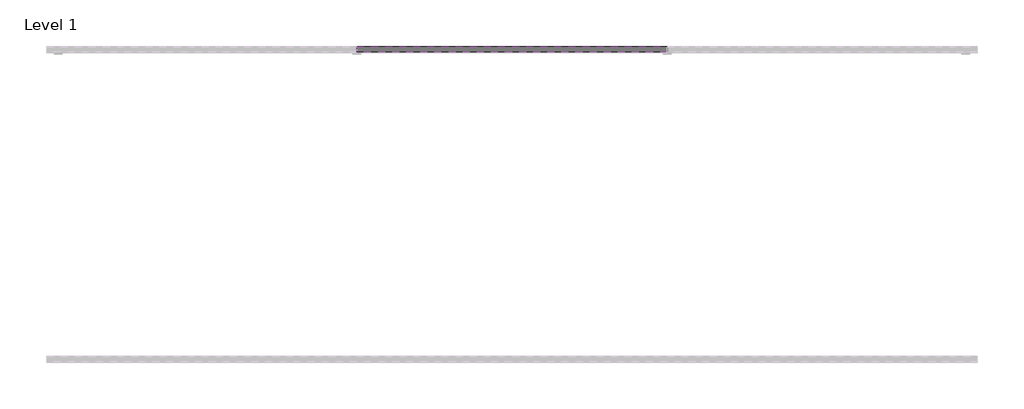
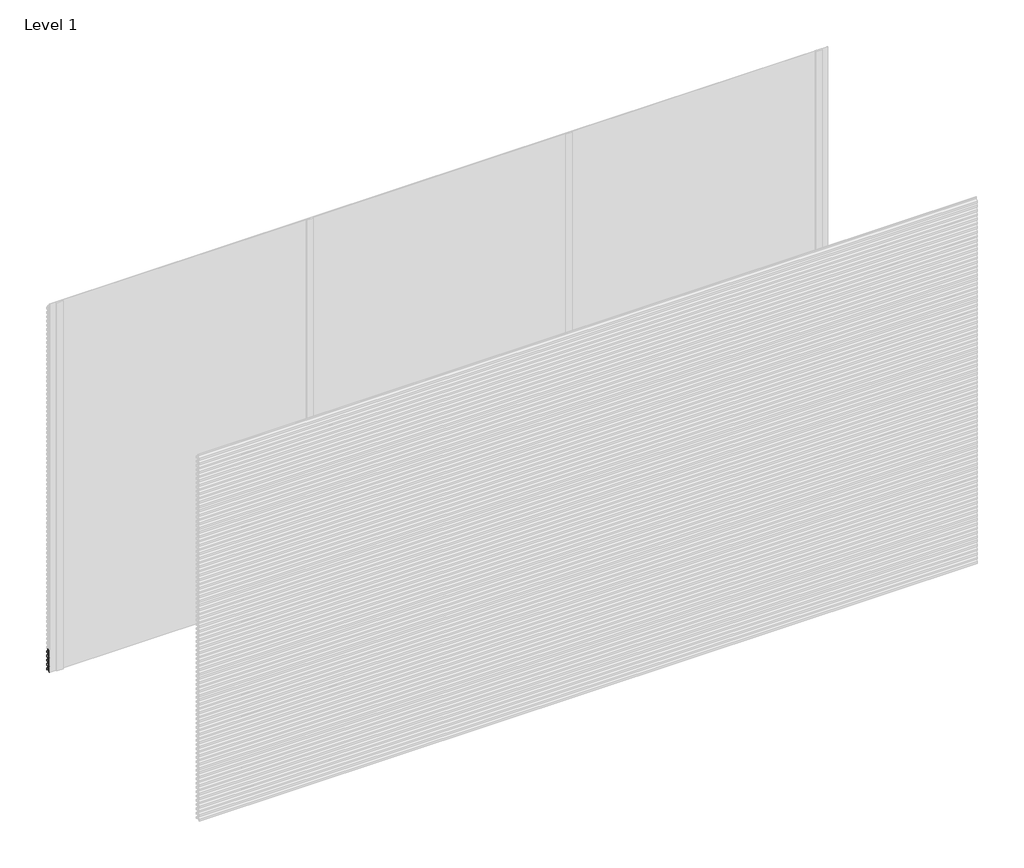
# One storey, part 16 of 17: 87 proxies.
"""IFC4 building model written with IfcOpenShell, lengths in millimetres."""

from ifc_helpers import new_model, si_unit, frame, origin, place, context, project, spatial, polyline, outline, extrude, element, save

model = new_model("IFC4")

# Units and contexts
model_context = context("Model", 3, world=origin())
ifc_project = project(units=[si_unit("LENGTHUNIT", "METRE", prefix="MILLI")], contexts=[model_context])

# Site, building, storey
site = spatial("IfcSite", under=ifc_project)
building = spatial("IfcBuilding", under=site)
storey = spatial("IfcBuildingStorey", under=building, Name="Level 1", Elevation=0.0)

# Proxies
placement = place(None, origin())
element("IfcBuildingElementProxy", 1, Name="Wall Sweeps", at=placement, inside=storey, context=model_context, shape_type="SweptSolid", body=[
    extrude(outline(polyline([(39.0, 151.5), (39.0, 136.5), (21.0, 148.6411533), (3.0, 136.5), (3.0, 151.5), (20.0, 162.9666448), (20.0, 175.0), (22.0, 175.0), (22.0, 162.9666448), (39.0, 151.5)])), frame((0.0, 0.0, 0.0), z_axis=(1.0, 0.0, 0.0), x_axis=(0.0, 1.0, 0.0)), (0.0, 0.0, 1.0), 2000.0),
])
element("IfcBuildingElementProxy", 2, Name="Wall Sweeps", at=placement, inside=storey, context=model_context, shape_type="SweptSolid", body=[
    extrude(outline(polyline([(39.0, 116.5), (39.0, 101.5), (21.0, 113.6411533), (3.0, 101.5), (3.0, 116.5), (20.0, 127.9666448), (20.0, 140.0), (22.0, 140.0), (22.0, 127.9666448), (39.0, 116.5)])), frame((0.0, 0.0, 0.0), z_axis=(1.0, 0.0, 0.0), x_axis=(0.0, 1.0, 0.0)), (0.0, 0.0, 1.0), 2000.0),
])
element("IfcBuildingElementProxy", 3, Name="Wall Sweeps", at=placement, inside=storey, context=model_context, shape_type="SweptSolid", body=[
    extrude(outline(polyline([(39.0, 81.5), (39.0, 66.5), (21.0, 78.6411533), (3.0, 66.5), (3.0, 81.5), (20.0, 92.9666448), (20.0, 105.0), (22.0, 105.0), (22.0, 92.9666448), (39.0, 81.5)])), frame((0.0, 0.0, 0.0), z_axis=(1.0, 0.0, 0.0), x_axis=(0.0, 1.0, 0.0)), (0.0, 0.0, 1.0), 2000.0),
])
element("IfcBuildingElementProxy", 4, Name="Wall Sweeps", at=placement, inside=storey, context=model_context, shape_type="SweptSolid", body=[
    extrude(outline(polyline([(39.0, 46.5), (39.0, 31.5), (21.0, 43.6411533), (3.0, 31.5), (3.0, 46.5), (20.0, 57.9666448), (20.0, 70.0), (22.0, 70.0), (22.0, 57.9666448), (39.0, 46.5)])), frame((0.0, 0.0, 0.0), z_axis=(1.0, 0.0, 0.0), x_axis=(0.0, 1.0, 0.0)), (0.0, 0.0, 1.0), 2000.0),
])
element("IfcBuildingElementProxy", 5, Name="Wall Sweeps", at=placement, inside=storey, context=model_context, shape_type="SweptSolid", body=[
    extrude(outline(polyline([(39.0, 11.5), (39.0, -3.5), (21.0, 8.6411533), (3.0, -3.5), (3.0, 11.5), (20.0, 22.9666448), (20.0, 35.0), (22.0, 35.0), (22.0, 22.9666448), (39.0, 11.5)])), frame((0.0, 0.0, 0.0), z_axis=(1.0, 0.0, 0.0), x_axis=(0.0, 1.0, 0.0)), (0.0, 0.0, 1.0), 2000.0),
])
element("IfcBuildingElementProxy", 6, Name="Wall Sweeps", at=placement, inside=storey, context=model_context, shape_type="SweptSolid", body=[
    extrude(outline(polyline([(39.0, 2951.5), (39.0, 2936.5), (21.0, 2948.6411533), (3.0, 2936.5), (3.0, 2951.5), (20.0, 2962.9666448), (20.0, 2975.0), (22.0, 2975.0), (22.0, 2962.9666448), (39.0, 2951.5)])), frame((2000.0, 0.0, 0.0), z_axis=(1.0, 0.0, 0.0), x_axis=(0.0, 1.0, 0.0)), (0.0, 0.0, 1.0), 2000.0),
])
element("IfcBuildingElementProxy", 7, Name="Wall Sweeps", at=placement, inside=storey, context=model_context, shape_type="SweptSolid", body=[
    extrude(outline(polyline([(39.0, 2916.5), (39.0, 2901.5), (21.0, 2913.6411533), (3.0, 2901.5), (3.0, 2916.5), (20.0, 2927.9666448), (20.0, 2940.0), (22.0, 2940.0), (22.0, 2927.9666448), (39.0, 2916.5)])), frame((2000.0, 0.0, 0.0), z_axis=(1.0, 0.0, 0.0), x_axis=(0.0, 1.0, 0.0)), (0.0, 0.0, 1.0), 2000.0),
])
element("IfcBuildingElementProxy", 8, Name="Wall Sweeps", at=placement, inside=storey, context=model_context, shape_type="SweptSolid", body=[
    extrude(outline(polyline([(39.0, 2881.5), (39.0, 2866.5), (21.0, 2878.6411533), (3.0, 2866.5), (3.0, 2881.5), (20.0, 2892.9666448), (20.0, 2905.0), (22.0, 2905.0), (22.0, 2892.9666448), (39.0, 2881.5)])), frame((2000.0, 0.0, 0.0), z_axis=(1.0, 0.0, 0.0), x_axis=(0.0, 1.0, 0.0)), (0.0, 0.0, 1.0), 2000.0),
])
element("IfcBuildingElementProxy", 9, Name="Wall Sweeps", at=placement, inside=storey, context=model_context, shape_type="SweptSolid", body=[
    extrude(outline(polyline([(39.0, 2846.5), (39.0, 2831.5), (21.0, 2843.6411533), (3.0, 2831.5), (3.0, 2846.5), (20.0, 2857.9666448), (20.0, 2870.0), (22.0, 2870.0), (22.0, 2857.9666448), (39.0, 2846.5)])), frame((2000.0, 0.0, 0.0), z_axis=(1.0, 0.0, 0.0), x_axis=(0.0, 1.0, 0.0)), (0.0, 0.0, 1.0), 2000.0),
])
element("IfcBuildingElementProxy", 10, Name="Wall Sweeps", at=placement, inside=storey, context=model_context, shape_type="SweptSolid", body=[
    extrude(outline(polyline([(39.0, 2811.5), (39.0, 2796.5), (21.0, 2808.6411533), (3.0, 2796.5), (3.0, 2811.5), (20.0, 2822.9666448), (20.0, 2835.0), (22.0, 2835.0), (22.0, 2822.9666448), (39.0, 2811.5)])), frame((2000.0, 0.0, 0.0), z_axis=(1.0, 0.0, 0.0), x_axis=(0.0, 1.0, 0.0)), (0.0, 0.0, 1.0), 2000.0),
])
element("IfcBuildingElementProxy", 11, Name="Wall Sweeps", at=placement, inside=storey, context=model_context, shape_type="SweptSolid", body=[
    extrude(outline(polyline([(39.0, 2776.5), (39.0, 2761.5), (21.0, 2773.6411533), (3.0, 2761.5), (3.0, 2776.5), (20.0, 2787.9666448), (20.0, 2800.0), (22.0, 2800.0), (22.0, 2787.9666448), (39.0, 2776.5)])), frame((2000.0, 0.0, 0.0), z_axis=(1.0, 0.0, 0.0), x_axis=(0.0, 1.0, 0.0)), (0.0, 0.0, 1.0), 2000.0),
])
element("IfcBuildingElementProxy", 12, Name="Wall Sweeps", at=placement, inside=storey, context=model_context, shape_type="SweptSolid", body=[
    extrude(outline(polyline([(39.0, 2741.5), (39.0, 2726.5), (21.0, 2738.6411533), (3.0, 2726.5), (3.0, 2741.5), (20.0, 2752.9666448), (20.0, 2765.0), (22.0, 2765.0), (22.0, 2752.9666448), (39.0, 2741.5)])), frame((2000.0, 0.0, 0.0), z_axis=(1.0, 0.0, 0.0), x_axis=(0.0, 1.0, 0.0)), (0.0, 0.0, 1.0), 2000.0),
])
element("IfcBuildingElementProxy", 13, Name="Wall Sweeps", at=placement, inside=storey, context=model_context, shape_type="SweptSolid", body=[
    extrude(outline(polyline([(39.0, 2706.5), (39.0, 2691.5), (21.0, 2703.6411533), (3.0, 2691.5), (3.0, 2706.5), (20.0, 2717.9666448), (20.0, 2730.0), (22.0, 2730.0), (22.0, 2717.9666448), (39.0, 2706.5)])), frame((2000.0, 0.0, 0.0), z_axis=(1.0, 0.0, 0.0), x_axis=(0.0, 1.0, 0.0)), (0.0, 0.0, 1.0), 2000.0),
])
element("IfcBuildingElementProxy", 14, Name="Wall Sweeps", at=placement, inside=storey, context=model_context, shape_type="SweptSolid", body=[
    extrude(outline(polyline([(39.0, 2671.5), (39.0, 2656.5), (21.0, 2668.6411533), (3.0, 2656.5), (3.0, 2671.5), (20.0, 2682.9666448), (20.0, 2695.0), (22.0, 2695.0), (22.0, 2682.9666448), (39.0, 2671.5)])), frame((2000.0, 0.0, 0.0), z_axis=(1.0, 0.0, 0.0), x_axis=(0.0, 1.0, 0.0)), (0.0, 0.0, 1.0), 2000.0),
])
element("IfcBuildingElementProxy", 15, Name="Wall Sweeps", at=placement, inside=storey, context=model_context, shape_type="SweptSolid", body=[
    extrude(outline(polyline([(39.0, 2636.5), (39.0, 2621.5), (21.0, 2633.6411533), (3.0, 2621.5), (3.0, 2636.5), (20.0, 2647.9666448), (20.0, 2660.0), (22.0, 2660.0), (22.0, 2647.9666448), (39.0, 2636.5)])), frame((2000.0, 0.0, 0.0), z_axis=(1.0, 0.0, 0.0), x_axis=(0.0, 1.0, 0.0)), (0.0, 0.0, 1.0), 2000.0),
])
element("IfcBuildingElementProxy", 16, Name="Wall Sweeps", at=placement, inside=storey, context=model_context, shape_type="SweptSolid", body=[
    extrude(outline(polyline([(39.0, 2601.5), (39.0, 2586.5), (21.0, 2598.6411533), (3.0, 2586.5), (3.0, 2601.5), (20.0, 2612.9666448), (20.0, 2625.0), (22.0, 2625.0), (22.0, 2612.9666448), (39.0, 2601.5)])), frame((2000.0, 0.0, 0.0), z_axis=(1.0, 0.0, 0.0), x_axis=(0.0, 1.0, 0.0)), (0.0, 0.0, 1.0), 2000.0),
])
element("IfcBuildingElementProxy", 17, Name="Wall Sweeps", at=placement, inside=storey, context=model_context, shape_type="SweptSolid", body=[
    extrude(outline(polyline([(39.0, 2566.5), (39.0, 2551.5), (21.0, 2563.6411533), (3.0, 2551.5), (3.0, 2566.5), (20.0, 2577.9666448), (20.0, 2590.0), (22.0, 2590.0), (22.0, 2577.9666448), (39.0, 2566.5)])), frame((2000.0, 0.0, 0.0), z_axis=(1.0, 0.0, 0.0), x_axis=(0.0, 1.0, 0.0)), (0.0, 0.0, 1.0), 2000.0),
])
element("IfcBuildingElementProxy", 18, Name="Wall Sweeps", at=placement, inside=storey, context=model_context, shape_type="SweptSolid", body=[
    extrude(outline(polyline([(39.0, 2531.5), (39.0, 2516.5), (21.0, 2528.6411533), (3.0, 2516.5), (3.0, 2531.5), (20.0, 2542.9666448), (20.0, 2555.0), (22.0, 2555.0), (22.0, 2542.9666448), (39.0, 2531.5)])), frame((2000.0, 0.0, 0.0), z_axis=(1.0, 0.0, 0.0), x_axis=(0.0, 1.0, 0.0)), (0.0, 0.0, 1.0), 2000.0),
])
element("IfcBuildingElementProxy", 19, Name="Wall Sweeps", at=placement, inside=storey, context=model_context, shape_type="SweptSolid", body=[
    extrude(outline(polyline([(39.0, 2496.5), (39.0, 2481.5), (21.0, 2493.6411533), (3.0, 2481.5), (3.0, 2496.5), (20.0, 2507.9666448), (20.0, 2520.0), (22.0, 2520.0), (22.0, 2507.9666448), (39.0, 2496.5)])), frame((2000.0, 0.0, 0.0), z_axis=(1.0, 0.0, 0.0), x_axis=(0.0, 1.0, 0.0)), (0.0, 0.0, 1.0), 2000.0),
])
element("IfcBuildingElementProxy", 20, Name="Wall Sweeps", at=placement, inside=storey, context=model_context, shape_type="SweptSolid", body=[
    extrude(outline(polyline([(39.0, 2461.5), (39.0, 2446.5), (21.0, 2458.6411533), (3.0, 2446.5), (3.0, 2461.5), (20.0, 2472.9666448), (20.0, 2485.0), (22.0, 2485.0), (22.0, 2472.9666448), (39.0, 2461.5)])), frame((2000.0, 0.0, 0.0), z_axis=(1.0, 0.0, 0.0), x_axis=(0.0, 1.0, 0.0)), (0.0, 0.0, 1.0), 2000.0),
])
element("IfcBuildingElementProxy", 21, Name="Wall Sweeps", at=placement, inside=storey, context=model_context, shape_type="SweptSolid", body=[
    extrude(outline(polyline([(39.0, 2426.5), (39.0, 2411.5), (21.0, 2423.6411533), (3.0, 2411.5), (3.0, 2426.5), (20.0, 2437.9666448), (20.0, 2450.0), (22.0, 2450.0), (22.0, 2437.9666448), (39.0, 2426.5)])), frame((2000.0, 0.0, 0.0), z_axis=(1.0, 0.0, 0.0), x_axis=(0.0, 1.0, 0.0)), (0.0, 0.0, 1.0), 2000.0),
])
element("IfcBuildingElementProxy", 22, Name="Wall Sweeps", at=placement, inside=storey, context=model_context, shape_type="SweptSolid", body=[
    extrude(outline(polyline([(39.0, 2391.5), (39.0, 2376.5), (21.0, 2388.6411533), (3.0, 2376.5), (3.0, 2391.5), (20.0, 2402.9666448), (20.0, 2415.0), (22.0, 2415.0), (22.0, 2402.9666448), (39.0, 2391.5)])), frame((2000.0, 0.0, 0.0), z_axis=(1.0, 0.0, 0.0), x_axis=(0.0, 1.0, 0.0)), (0.0, 0.0, 1.0), 2000.0),
])
element("IfcBuildingElementProxy", 23, Name="Wall Sweeps", at=placement, inside=storey, context=model_context, shape_type="SweptSolid", body=[
    extrude(outline(polyline([(39.0, 2356.5), (39.0, 2341.5), (21.0, 2353.6411533), (3.0, 2341.5), (3.0, 2356.5), (20.0, 2367.9666448), (20.0, 2380.0), (22.0, 2380.0), (22.0, 2367.9666448), (39.0, 2356.5)])), frame((2000.0, 0.0, 0.0), z_axis=(1.0, 0.0, 0.0), x_axis=(0.0, 1.0, 0.0)), (0.0, 0.0, 1.0), 2000.0),
])
element("IfcBuildingElementProxy", 24, Name="Wall Sweeps", at=placement, inside=storey, context=model_context, shape_type="SweptSolid", body=[
    extrude(outline(polyline([(39.0, 2321.5), (39.0, 2306.5), (21.0, 2318.6411533), (3.0, 2306.5), (3.0, 2321.5), (20.0, 2332.9666448), (20.0, 2345.0), (22.0, 2345.0), (22.0, 2332.9666448), (39.0, 2321.5)])), frame((2000.0, 0.0, 0.0), z_axis=(1.0, 0.0, 0.0), x_axis=(0.0, 1.0, 0.0)), (0.0, 0.0, 1.0), 2000.0),
])
element("IfcBuildingElementProxy", 25, Name="Wall Sweeps", at=placement, inside=storey, context=model_context, shape_type="SweptSolid", body=[
    extrude(outline(polyline([(39.0, 2286.5), (39.0, 2271.5), (21.0, 2283.6411533), (3.0, 2271.5), (3.0, 2286.5), (20.0, 2297.9666448), (20.0, 2310.0), (22.0, 2310.0), (22.0, 2297.9666448), (39.0, 2286.5)])), frame((2000.0, 0.0, 0.0), z_axis=(1.0, 0.0, 0.0), x_axis=(0.0, 1.0, 0.0)), (0.0, 0.0, 1.0), 2000.0),
])
element("IfcBuildingElementProxy", 26, Name="Wall Sweeps", at=placement, inside=storey, context=model_context, shape_type="SweptSolid", body=[
    extrude(outline(polyline([(39.0, 2251.5), (39.0, 2236.5), (21.0, 2248.6411533), (3.0, 2236.5), (3.0, 2251.5), (20.0, 2262.9666448), (20.0, 2275.0), (22.0, 2275.0), (22.0, 2262.9666448), (39.0, 2251.5)])), frame((2000.0, 0.0, 0.0), z_axis=(1.0, 0.0, 0.0), x_axis=(0.0, 1.0, 0.0)), (0.0, 0.0, 1.0), 2000.0),
])
element("IfcBuildingElementProxy", 27, Name="Wall Sweeps", at=placement, inside=storey, context=model_context, shape_type="SweptSolid", body=[
    extrude(outline(polyline([(39.0, 2216.5), (39.0, 2201.5), (21.0, 2213.6411533), (3.0, 2201.5), (3.0, 2216.5), (20.0, 2227.9666448), (20.0, 2240.0), (22.0, 2240.0), (22.0, 2227.9666448), (39.0, 2216.5)])), frame((2000.0, 0.0, 0.0), z_axis=(1.0, 0.0, 0.0), x_axis=(0.0, 1.0, 0.0)), (0.0, 0.0, 1.0), 2000.0),
])
element("IfcBuildingElementProxy", 28, Name="Wall Sweeps", at=placement, inside=storey, context=model_context, shape_type="SweptSolid", body=[
    extrude(outline(polyline([(39.0, 2181.5), (39.0, 2166.5), (21.0, 2178.6411533), (3.0, 2166.5), (3.0, 2181.5), (20.0, 2192.9666448), (20.0, 2205.0), (22.0, 2205.0), (22.0, 2192.9666448), (39.0, 2181.5)])), frame((2000.0, 0.0, 0.0), z_axis=(1.0, 0.0, 0.0), x_axis=(0.0, 1.0, 0.0)), (0.0, 0.0, 1.0), 2000.0),
])
element("IfcBuildingElementProxy", 29, Name="Wall Sweeps", at=placement, inside=storey, context=model_context, shape_type="SweptSolid", body=[
    extrude(outline(polyline([(39.0, 2146.5), (39.0, 2131.5), (21.0, 2143.6411533), (3.0, 2131.5), (3.0, 2146.5), (20.0, 2157.9666448), (20.0, 2170.0), (22.0, 2170.0), (22.0, 2157.9666448), (39.0, 2146.5)])), frame((2000.0, 0.0, 0.0), z_axis=(1.0, 0.0, 0.0), x_axis=(0.0, 1.0, 0.0)), (0.0, 0.0, 1.0), 2000.0),
])
element("IfcBuildingElementProxy", 30, Name="Wall Sweeps", at=placement, inside=storey, context=model_context, shape_type="SweptSolid", body=[
    extrude(outline(polyline([(39.0, 2111.5), (39.0, 2096.5), (21.0, 2108.6411533), (3.0, 2096.5), (3.0, 2111.5), (20.0, 2122.9666448), (20.0, 2135.0), (22.0, 2135.0), (22.0, 2122.9666448), (39.0, 2111.5)])), frame((2000.0, 0.0, 0.0), z_axis=(1.0, 0.0, 0.0), x_axis=(0.0, 1.0, 0.0)), (0.0, 0.0, 1.0), 2000.0),
])
element("IfcBuildingElementProxy", 31, Name="Wall Sweeps", at=placement, inside=storey, context=model_context, shape_type="SweptSolid", body=[
    extrude(outline(polyline([(39.0, 2076.5), (39.0, 2061.5), (21.0, 2073.6411533), (3.0, 2061.5), (3.0, 2076.5), (20.0, 2087.9666448), (20.0, 2100.0), (22.0, 2100.0), (22.0, 2087.9666448), (39.0, 2076.5)])), frame((2000.0, 0.0, 0.0), z_axis=(1.0, 0.0, 0.0), x_axis=(0.0, 1.0, 0.0)), (0.0, 0.0, 1.0), 2000.0),
])
element("IfcBuildingElementProxy", 32, Name="Wall Sweeps", at=placement, inside=storey, context=model_context, shape_type="SweptSolid", body=[
    extrude(outline(polyline([(39.0, 2041.5), (39.0, 2026.5), (21.0, 2038.6411533), (3.0, 2026.5), (3.0, 2041.5), (20.0, 2052.9666448), (20.0, 2065.0), (22.0, 2065.0), (22.0, 2052.9666448), (39.0, 2041.5)])), frame((2000.0, 0.0, 0.0), z_axis=(1.0, 0.0, 0.0), x_axis=(0.0, 1.0, 0.0)), (0.0, 0.0, 1.0), 2000.0),
])
element("IfcBuildingElementProxy", 33, Name="Wall Sweeps", at=placement, inside=storey, context=model_context, shape_type="SweptSolid", body=[
    extrude(outline(polyline([(39.0, 2006.5), (39.0, 1991.5), (21.0, 2003.6411533), (3.0, 1991.5), (3.0, 2006.5), (20.0, 2017.9666448), (20.0, 2030.0), (22.0, 2030.0), (22.0, 2017.9666448), (39.0, 2006.5)])), frame((2000.0, 0.0, 0.0), z_axis=(1.0, 0.0, 0.0), x_axis=(0.0, 1.0, 0.0)), (0.0, 0.0, 1.0), 2000.0),
])
element("IfcBuildingElementProxy", 34, Name="Wall Sweeps", at=placement, inside=storey, context=model_context, shape_type="SweptSolid", body=[
    extrude(outline(polyline([(39.0, 1971.5), (39.0, 1956.5), (21.0, 1968.6411533), (3.0, 1956.5), (3.0, 1971.5), (20.0, 1982.9666448), (20.0, 1995.0), (22.0, 1995.0), (22.0, 1982.9666448), (39.0, 1971.5)])), frame((2000.0, 0.0, 0.0), z_axis=(1.0, 0.0, 0.0), x_axis=(0.0, 1.0, 0.0)), (0.0, 0.0, 1.0), 2000.0),
])
element("IfcBuildingElementProxy", 35, Name="Wall Sweeps", at=placement, inside=storey, context=model_context, shape_type="SweptSolid", body=[
    extrude(outline(polyline([(39.0, 1936.5), (39.0, 1921.5), (21.0, 1933.6411533), (3.0, 1921.5), (3.0, 1936.5), (20.0, 1947.9666448), (20.0, 1960.0), (22.0, 1960.0), (22.0, 1947.9666448), (39.0, 1936.5)])), frame((2000.0, 0.0, 0.0), z_axis=(1.0, 0.0, 0.0), x_axis=(0.0, 1.0, 0.0)), (0.0, 0.0, 1.0), 2000.0),
])
element("IfcBuildingElementProxy", 36, Name="Wall Sweeps", at=placement, inside=storey, context=model_context, shape_type="SweptSolid", body=[
    extrude(outline(polyline([(39.0, 1901.5), (39.0, 1886.5), (21.0, 1898.6411533), (3.0, 1886.5), (3.0, 1901.5), (20.0, 1912.9666448), (20.0, 1925.0), (22.0, 1925.0), (22.0, 1912.9666448), (39.0, 1901.5)])), frame((2000.0, 0.0, 0.0), z_axis=(1.0, 0.0, 0.0), x_axis=(0.0, 1.0, 0.0)), (0.0, 0.0, 1.0), 2000.0),
])
element("IfcBuildingElementProxy", 37, Name="Wall Sweeps", at=placement, inside=storey, context=model_context, shape_type="SweptSolid", body=[
    extrude(outline(polyline([(39.0, 1866.5), (39.0, 1851.5), (21.0, 1863.6411533), (3.0, 1851.5), (3.0, 1866.5), (20.0, 1877.9666448), (20.0, 1890.0), (22.0, 1890.0), (22.0, 1877.9666448), (39.0, 1866.5)])), frame((2000.0, 0.0, 0.0), z_axis=(1.0, 0.0, 0.0), x_axis=(0.0, 1.0, 0.0)), (0.0, 0.0, 1.0), 2000.0),
])
element("IfcBuildingElementProxy", 38, Name="Wall Sweeps", at=placement, inside=storey, context=model_context, shape_type="SweptSolid", body=[
    extrude(outline(polyline([(39.0, 1831.5), (39.0, 1816.5), (21.0, 1828.6411533), (3.0, 1816.5), (3.0, 1831.5), (20.0, 1842.9666448), (20.0, 1855.0), (22.0, 1855.0), (22.0, 1842.9666448), (39.0, 1831.5)])), frame((2000.0, 0.0, 0.0), z_axis=(1.0, 0.0, 0.0), x_axis=(0.0, 1.0, 0.0)), (0.0, 0.0, 1.0), 2000.0),
])
element("IfcBuildingElementProxy", 39, Name="Wall Sweeps", at=placement, inside=storey, context=model_context, shape_type="SweptSolid", body=[
    extrude(outline(polyline([(39.0, 1796.5), (39.0, 1781.5), (21.0, 1793.6411533), (3.0, 1781.5), (3.0, 1796.5), (20.0, 1807.9666448), (20.0, 1820.0), (22.0, 1820.0), (22.0, 1807.9666448), (39.0, 1796.5)])), frame((2000.0, 0.0, 0.0), z_axis=(1.0, 0.0, 0.0), x_axis=(0.0, 1.0, 0.0)), (0.0, 0.0, 1.0), 2000.0),
])
element("IfcBuildingElementProxy", 40, Name="Wall Sweeps", at=placement, inside=storey, context=model_context, shape_type="SweptSolid", body=[
    extrude(outline(polyline([(39.0, 1761.5), (39.0, 1746.5), (21.0, 1758.6411533), (3.0, 1746.5), (3.0, 1761.5), (20.0, 1772.9666448), (20.0, 1785.0), (22.0, 1785.0), (22.0, 1772.9666448), (39.0, 1761.5)])), frame((2000.0, 0.0, 0.0), z_axis=(1.0, 0.0, 0.0), x_axis=(0.0, 1.0, 0.0)), (0.0, 0.0, 1.0), 2000.0),
])
element("IfcBuildingElementProxy", 41, Name="Wall Sweeps", at=placement, inside=storey, context=model_context, shape_type="SweptSolid", body=[
    extrude(outline(polyline([(39.0, 1726.5), (39.0, 1711.5), (21.0, 1723.6411533), (3.0, 1711.5), (3.0, 1726.5), (20.0, 1737.9666448), (20.0, 1750.0), (22.0, 1750.0), (22.0, 1737.9666448), (39.0, 1726.5)])), frame((2000.0, 0.0, 0.0), z_axis=(1.0, 0.0, 0.0), x_axis=(0.0, 1.0, 0.0)), (0.0, 0.0, 1.0), 2000.0),
])
element("IfcBuildingElementProxy", 42, Name="Wall Sweeps", at=placement, inside=storey, context=model_context, shape_type="SweptSolid", body=[
    extrude(outline(polyline([(39.0, 1691.5), (39.0, 1676.5), (21.0, 1688.6411533), (3.0, 1676.5), (3.0, 1691.5), (20.0, 1702.9666448), (20.0, 1715.0), (22.0, 1715.0), (22.0, 1702.9666448), (39.0, 1691.5)])), frame((2000.0, 0.0, 0.0), z_axis=(1.0, 0.0, 0.0), x_axis=(0.0, 1.0, 0.0)), (0.0, 0.0, 1.0), 2000.0),
])
element("IfcBuildingElementProxy", 43, Name="Wall Sweeps", at=placement, inside=storey, context=model_context, shape_type="SweptSolid", body=[
    extrude(outline(polyline([(39.0, 1656.5), (39.0, 1641.5), (21.0, 1653.6411533), (3.0, 1641.5), (3.0, 1656.5), (20.0, 1667.9666448), (20.0, 1680.0), (22.0, 1680.0), (22.0, 1667.9666448), (39.0, 1656.5)])), frame((2000.0, 0.0, 0.0), z_axis=(1.0, 0.0, 0.0), x_axis=(0.0, 1.0, 0.0)), (0.0, 0.0, 1.0), 2000.0),
])
element("IfcBuildingElementProxy", 44, Name="Wall Sweeps", at=placement, inside=storey, context=model_context, shape_type="SweptSolid", body=[
    extrude(outline(polyline([(39.0, 1621.5), (39.0, 1606.5), (21.0, 1618.6411533), (3.0, 1606.5), (3.0, 1621.5), (20.0, 1632.9666448), (20.0, 1645.0), (22.0, 1645.0), (22.0, 1632.9666448), (39.0, 1621.5)])), frame((2000.0, 0.0, 0.0), z_axis=(1.0, 0.0, 0.0), x_axis=(0.0, 1.0, 0.0)), (0.0, 0.0, 1.0), 2000.0),
])
element("IfcBuildingElementProxy", 45, Name="Wall Sweeps", at=placement, inside=storey, context=model_context, shape_type="SweptSolid", body=[
    extrude(outline(polyline([(39.0, 1586.5), (39.0, 1571.5), (21.0, 1583.6411533), (3.0, 1571.5), (3.0, 1586.5), (20.0, 1597.9666448), (20.0, 1610.0), (22.0, 1610.0), (22.0, 1597.9666448), (39.0, 1586.5)])), frame((2000.0, 0.0, 0.0), z_axis=(1.0, 0.0, 0.0), x_axis=(0.0, 1.0, 0.0)), (0.0, 0.0, 1.0), 2000.0),
])
element("IfcBuildingElementProxy", 46, Name="Wall Sweeps", at=placement, inside=storey, context=model_context, shape_type="SweptSolid", body=[
    extrude(outline(polyline([(39.0, 1551.5), (39.0, 1536.5), (21.0, 1548.6411533), (3.0, 1536.5), (3.0, 1551.5), (20.0, 1562.9666448), (20.0, 1575.0), (22.0, 1575.0), (22.0, 1562.9666448), (39.0, 1551.5)])), frame((2000.0, 0.0, 0.0), z_axis=(1.0, 0.0, 0.0), x_axis=(0.0, 1.0, 0.0)), (0.0, 0.0, 1.0), 2000.0),
])
element("IfcBuildingElementProxy", 47, Name="Wall Sweeps", at=placement, inside=storey, context=model_context, shape_type="SweptSolid", body=[
    extrude(outline(polyline([(39.0, 1516.5), (39.0, 1501.5), (21.0, 1513.6411533), (3.0, 1501.5), (3.0, 1516.5), (20.0, 1527.9666448), (20.0, 1540.0), (22.0, 1540.0), (22.0, 1527.9666448), (39.0, 1516.5)])), frame((2000.0, 0.0, 0.0), z_axis=(1.0, 0.0, 0.0), x_axis=(0.0, 1.0, 0.0)), (0.0, 0.0, 1.0), 2000.0),
])
element("IfcBuildingElementProxy", 48, Name="Wall Sweeps", at=placement, inside=storey, context=model_context, shape_type="SweptSolid", body=[
    extrude(outline(polyline([(39.0, 1481.5), (39.0, 1466.5), (21.0, 1478.6411533), (3.0, 1466.5), (3.0, 1481.5), (20.0, 1492.9666448), (20.0, 1505.0), (22.0, 1505.0), (22.0, 1492.9666448), (39.0, 1481.5)])), frame((2000.0, 0.0, 0.0), z_axis=(1.0, 0.0, 0.0), x_axis=(0.0, 1.0, 0.0)), (0.0, 0.0, 1.0), 2000.0),
])
element("IfcBuildingElementProxy", 49, Name="Wall Sweeps", at=placement, inside=storey, context=model_context, shape_type="SweptSolid", body=[
    extrude(outline(polyline([(39.0, 1446.5), (39.0, 1431.5), (21.0, 1443.6411533), (3.0, 1431.5), (3.0, 1446.5), (20.0, 1457.9666448), (20.0, 1470.0), (22.0, 1470.0), (22.0, 1457.9666448), (39.0, 1446.5)])), frame((2000.0, 0.0, 0.0), z_axis=(1.0, 0.0, 0.0), x_axis=(0.0, 1.0, 0.0)), (0.0, 0.0, 1.0), 2000.0),
])
element("IfcBuildingElementProxy", 50, Name="Wall Sweeps", at=placement, inside=storey, context=model_context, shape_type="SweptSolid", body=[
    extrude(outline(polyline([(39.0, 1411.5), (39.0, 1396.5), (21.0, 1408.6411533), (3.0, 1396.5), (3.0, 1411.5), (20.0, 1422.9666448), (20.0, 1435.0), (22.0, 1435.0), (22.0, 1422.9666448), (39.0, 1411.5)])), frame((2000.0, 0.0, 0.0), z_axis=(1.0, 0.0, 0.0), x_axis=(0.0, 1.0, 0.0)), (0.0, 0.0, 1.0), 2000.0),
])
element("IfcBuildingElementProxy", 51, Name="Wall Sweeps", at=placement, inside=storey, context=model_context, shape_type="SweptSolid", body=[
    extrude(outline(polyline([(39.0, 1376.5), (39.0, 1361.5), (21.0, 1373.6411533), (3.0, 1361.5), (3.0, 1376.5), (20.0, 1387.9666448), (20.0, 1400.0), (22.0, 1400.0), (22.0, 1387.9666448), (39.0, 1376.5)])), frame((2000.0, 0.0, 0.0), z_axis=(1.0, 0.0, 0.0), x_axis=(0.0, 1.0, 0.0)), (0.0, 0.0, 1.0), 2000.0),
])
element("IfcBuildingElementProxy", 52, Name="Wall Sweeps", at=placement, inside=storey, context=model_context, shape_type="SweptSolid", body=[
    extrude(outline(polyline([(39.0, 1341.5), (39.0, 1326.5), (21.0, 1338.6411533), (3.0, 1326.5), (3.0, 1341.5), (20.0, 1352.9666448), (20.0, 1365.0), (22.0, 1365.0), (22.0, 1352.9666448), (39.0, 1341.5)])), frame((2000.0, 0.0, 0.0), z_axis=(1.0, 0.0, 0.0), x_axis=(0.0, 1.0, 0.0)), (0.0, 0.0, 1.0), 2000.0),
])
element("IfcBuildingElementProxy", 53, Name="Wall Sweeps", at=placement, inside=storey, context=model_context, shape_type="SweptSolid", body=[
    extrude(outline(polyline([(39.0, 1306.5), (39.0, 1291.5), (21.0, 1303.6411533), (3.0, 1291.5), (3.0, 1306.5), (20.0, 1317.9666448), (20.0, 1330.0), (22.0, 1330.0), (22.0, 1317.9666448), (39.0, 1306.5)])), frame((2000.0, 0.0, 0.0), z_axis=(1.0, 0.0, 0.0), x_axis=(0.0, 1.0, 0.0)), (0.0, 0.0, 1.0), 2000.0),
])
element("IfcBuildingElementProxy", 54, Name="Wall Sweeps", at=placement, inside=storey, context=model_context, shape_type="SweptSolid", body=[
    extrude(outline(polyline([(39.0, 1271.5), (39.0, 1256.5), (21.0, 1268.6411533), (3.0, 1256.5), (3.0, 1271.5), (20.0, 1282.9666448), (20.0, 1295.0), (22.0, 1295.0), (22.0, 1282.9666448), (39.0, 1271.5)])), frame((2000.0, 0.0, 0.0), z_axis=(1.0, 0.0, 0.0), x_axis=(0.0, 1.0, 0.0)), (0.0, 0.0, 1.0), 2000.0),
])
element("IfcBuildingElementProxy", 55, Name="Wall Sweeps", at=placement, inside=storey, context=model_context, shape_type="SweptSolid", body=[
    extrude(outline(polyline([(39.0, 1236.5), (39.0, 1221.5), (21.0, 1233.6411533), (3.0, 1221.5), (3.0, 1236.5), (20.0, 1247.9666448), (20.0, 1260.0), (22.0, 1260.0), (22.0, 1247.9666448), (39.0, 1236.5)])), frame((2000.0, 0.0, 0.0), z_axis=(1.0, 0.0, 0.0), x_axis=(0.0, 1.0, 0.0)), (0.0, 0.0, 1.0), 2000.0),
])
element("IfcBuildingElementProxy", 56, Name="Wall Sweeps", at=placement, inside=storey, context=model_context, shape_type="SweptSolid", body=[
    extrude(outline(polyline([(39.0, 1201.5), (39.0, 1186.5), (21.0, 1198.6411533), (3.0, 1186.5), (3.0, 1201.5), (20.0, 1212.9666448), (20.0, 1225.0), (22.0, 1225.0), (22.0, 1212.9666448), (39.0, 1201.5)])), frame((2000.0, 0.0, 0.0), z_axis=(1.0, 0.0, 0.0), x_axis=(0.0, 1.0, 0.0)), (0.0, 0.0, 1.0), 2000.0),
])
element("IfcBuildingElementProxy", 57, Name="Wall Sweeps", at=placement, inside=storey, context=model_context, shape_type="SweptSolid", body=[
    extrude(outline(polyline([(39.0, 1166.5), (39.0, 1151.5), (21.0, 1163.6411533), (3.0, 1151.5), (3.0, 1166.5), (20.0, 1177.9666448), (20.0, 1190.0), (22.0, 1190.0), (22.0, 1177.9666448), (39.0, 1166.5)])), frame((2000.0, 0.0, 0.0), z_axis=(1.0, 0.0, 0.0), x_axis=(0.0, 1.0, 0.0)), (0.0, 0.0, 1.0), 2000.0),
])
element("IfcBuildingElementProxy", 58, Name="Wall Sweeps", at=placement, inside=storey, context=model_context, shape_type="SweptSolid", body=[
    extrude(outline(polyline([(39.0, 1131.5), (39.0, 1116.5), (21.0, 1128.6411533), (3.0, 1116.5), (3.0, 1131.5), (20.0, 1142.9666448), (20.0, 1155.0), (22.0, 1155.0), (22.0, 1142.9666448), (39.0, 1131.5)])), frame((2000.0, 0.0, 0.0), z_axis=(1.0, 0.0, 0.0), x_axis=(0.0, 1.0, 0.0)), (0.0, 0.0, 1.0), 2000.0),
])
element("IfcBuildingElementProxy", 59, Name="Wall Sweeps", at=placement, inside=storey, context=model_context, shape_type="SweptSolid", body=[
    extrude(outline(polyline([(39.0, 1096.5), (39.0, 1081.5), (21.0, 1093.6411533), (3.0, 1081.5), (3.0, 1096.5), (20.0, 1107.9666448), (20.0, 1120.0), (22.0, 1120.0), (22.0, 1107.9666448), (39.0, 1096.5)])), frame((2000.0, 0.0, 0.0), z_axis=(1.0, 0.0, 0.0), x_axis=(0.0, 1.0, 0.0)), (0.0, 0.0, 1.0), 2000.0),
])
element("IfcBuildingElementProxy", 60, Name="Wall Sweeps", at=placement, inside=storey, context=model_context, shape_type="SweptSolid", body=[
    extrude(outline(polyline([(39.0, 1061.5), (39.0, 1046.5), (21.0, 1058.6411533), (3.0, 1046.5), (3.0, 1061.5), (20.0, 1072.9666448), (20.0, 1085.0), (22.0, 1085.0), (22.0, 1072.9666448), (39.0, 1061.5)])), frame((2000.0, 0.0, 0.0), z_axis=(1.0, 0.0, 0.0), x_axis=(0.0, 1.0, 0.0)), (0.0, 0.0, 1.0), 2000.0),
])
element("IfcBuildingElementProxy", 61, Name="Wall Sweeps", at=placement, inside=storey, context=model_context, shape_type="SweptSolid", body=[
    extrude(outline(polyline([(39.0, 1026.5), (39.0, 1011.5), (21.0, 1023.6411533), (3.0, 1011.5), (3.0, 1026.5), (20.0, 1037.9666448), (20.0, 1050.0), (22.0, 1050.0), (22.0, 1037.9666448), (39.0, 1026.5)])), frame((2000.0, 0.0, 0.0), z_axis=(1.0, 0.0, 0.0), x_axis=(0.0, 1.0, 0.0)), (0.0, 0.0, 1.0), 2000.0),
])
element("IfcBuildingElementProxy", 62, Name="Wall Sweeps", at=placement, inside=storey, context=model_context, shape_type="SweptSolid", body=[
    extrude(outline(polyline([(39.0, 991.5), (39.0, 976.5), (21.0, 988.6411533), (3.0, 976.5), (3.0, 991.5), (20.0, 1002.9666448), (20.0, 1015.0), (22.0, 1015.0), (22.0, 1002.9666448), (39.0, 991.5)])), frame((2000.0, 0.0, 0.0), z_axis=(1.0, 0.0, 0.0), x_axis=(0.0, 1.0, 0.0)), (0.0, 0.0, 1.0), 2000.0),
])
element("IfcBuildingElementProxy", 63, Name="Wall Sweeps", at=placement, inside=storey, context=model_context, shape_type="SweptSolid", body=[
    extrude(outline(polyline([(39.0, 956.5), (39.0, 941.5), (21.0, 953.6411533), (3.0, 941.5), (3.0, 956.5), (20.0, 967.9666448), (20.0, 980.0), (22.0, 980.0), (22.0, 967.9666448), (39.0, 956.5)])), frame((2000.0, 0.0, 0.0), z_axis=(1.0, 0.0, 0.0), x_axis=(0.0, 1.0, 0.0)), (0.0, 0.0, 1.0), 2000.0),
])
element("IfcBuildingElementProxy", 64, Name="Wall Sweeps", at=placement, inside=storey, context=model_context, shape_type="SweptSolid", body=[
    extrude(outline(polyline([(39.0, 921.5), (39.0, 906.5), (21.0, 918.6411533), (3.0, 906.5), (3.0, 921.5), (20.0, 932.9666448), (20.0, 945.0), (22.0, 945.0), (22.0, 932.9666448), (39.0, 921.5)])), frame((2000.0, 0.0, 0.0), z_axis=(1.0, 0.0, 0.0), x_axis=(0.0, 1.0, 0.0)), (0.0, 0.0, 1.0), 2000.0),
])
element("IfcBuildingElementProxy", 65, Name="Wall Sweeps", at=placement, inside=storey, context=model_context, shape_type="SweptSolid", body=[
    extrude(outline(polyline([(39.0, 886.5), (39.0, 871.5), (21.0, 883.6411533), (3.0, 871.5), (3.0, 886.5), (20.0, 897.9666448), (20.0, 910.0), (22.0, 910.0), (22.0, 897.9666448), (39.0, 886.5)])), frame((2000.0, 0.0, 0.0), z_axis=(1.0, 0.0, 0.0), x_axis=(0.0, 1.0, 0.0)), (0.0, 0.0, 1.0), 2000.0),
])
element("IfcBuildingElementProxy", 66, Name="Wall Sweeps", at=placement, inside=storey, context=model_context, shape_type="SweptSolid", body=[
    extrude(outline(polyline([(39.0, 851.5), (39.0, 836.5), (21.0, 848.6411533), (3.0, 836.5), (3.0, 851.5), (20.0, 862.9666448), (20.0, 875.0), (22.0, 875.0), (22.0, 862.9666448), (39.0, 851.5)])), frame((2000.0, 0.0, 0.0), z_axis=(1.0, 0.0, 0.0), x_axis=(0.0, 1.0, 0.0)), (0.0, 0.0, 1.0), 2000.0),
])
element("IfcBuildingElementProxy", 67, Name="Wall Sweeps", at=placement, inside=storey, context=model_context, shape_type="SweptSolid", body=[
    extrude(outline(polyline([(39.0, 816.5), (39.0, 801.5), (21.0, 813.6411533), (3.0, 801.5), (3.0, 816.5), (20.0, 827.9666448), (20.0, 840.0), (22.0, 840.0), (22.0, 827.9666448), (39.0, 816.5)])), frame((2000.0, 0.0, 0.0), z_axis=(1.0, 0.0, 0.0), x_axis=(0.0, 1.0, 0.0)), (0.0, 0.0, 1.0), 2000.0),
])
element("IfcBuildingElementProxy", 68, Name="Wall Sweeps", at=placement, inside=storey, context=model_context, shape_type="SweptSolid", body=[
    extrude(outline(polyline([(39.0, 781.5), (39.0, 766.5), (21.0, 778.6411533), (3.0, 766.5), (3.0, 781.5), (20.0, 792.9666448), (20.0, 805.0), (22.0, 805.0), (22.0, 792.9666448), (39.0, 781.5)])), frame((2000.0, 0.0, 0.0), z_axis=(1.0, 0.0, 0.0), x_axis=(0.0, 1.0, 0.0)), (0.0, 0.0, 1.0), 2000.0),
])
element("IfcBuildingElementProxy", 69, Name="Wall Sweeps", at=placement, inside=storey, context=model_context, shape_type="SweptSolid", body=[
    extrude(outline(polyline([(39.0, 746.5), (39.0, 731.5), (21.0, 743.6411533), (3.0, 731.5), (3.0, 746.5), (20.0, 757.9666448), (20.0, 770.0), (22.0, 770.0), (22.0, 757.9666448), (39.0, 746.5)])), frame((2000.0, 0.0, 0.0), z_axis=(1.0, 0.0, 0.0), x_axis=(0.0, 1.0, 0.0)), (0.0, 0.0, 1.0), 2000.0),
])
element("IfcBuildingElementProxy", 70, Name="Wall Sweeps", at=placement, inside=storey, context=model_context, shape_type="SweptSolid", body=[
    extrude(outline(polyline([(39.0, 711.5), (39.0, 696.5), (21.0, 708.6411533), (3.0, 696.5), (3.0, 711.5), (20.0, 722.9666448), (20.0, 735.0), (22.0, 735.0), (22.0, 722.9666448), (39.0, 711.5)])), frame((2000.0, 0.0, 0.0), z_axis=(1.0, 0.0, 0.0), x_axis=(0.0, 1.0, 0.0)), (0.0, 0.0, 1.0), 2000.0),
])
element("IfcBuildingElementProxy", 71, Name="Wall Sweeps", at=placement, inside=storey, context=model_context, shape_type="SweptSolid", body=[
    extrude(outline(polyline([(39.0, 676.5), (39.0, 661.5), (21.0, 673.6411533), (3.0, 661.5), (3.0, 676.5), (20.0, 687.9666448), (20.0, 700.0), (22.0, 700.0), (22.0, 687.9666448), (39.0, 676.5)])), frame((2000.0, 0.0, 0.0), z_axis=(1.0, 0.0, 0.0), x_axis=(0.0, 1.0, 0.0)), (0.0, 0.0, 1.0), 2000.0),
])
element("IfcBuildingElementProxy", 72, Name="Wall Sweeps", at=placement, inside=storey, context=model_context, shape_type="SweptSolid", body=[
    extrude(outline(polyline([(39.0, 641.5), (39.0, 626.5), (21.0, 638.6411533), (3.0, 626.5), (3.0, 641.5), (20.0, 652.9666448), (20.0, 665.0), (22.0, 665.0), (22.0, 652.9666448), (39.0, 641.5)])), frame((2000.0, 0.0, 0.0), z_axis=(1.0, 0.0, 0.0), x_axis=(0.0, 1.0, 0.0)), (0.0, 0.0, 1.0), 2000.0),
])
element("IfcBuildingElementProxy", 73, Name="Wall Sweeps", at=placement, inside=storey, context=model_context, shape_type="SweptSolid", body=[
    extrude(outline(polyline([(39.0, 606.5), (39.0, 591.5), (21.0, 603.6411533), (3.0, 591.5), (3.0, 606.5), (20.0, 617.9666448), (20.0, 630.0), (22.0, 630.0), (22.0, 617.9666448), (39.0, 606.5)])), frame((2000.0, 0.0, 0.0), z_axis=(1.0, 0.0, 0.0), x_axis=(0.0, 1.0, 0.0)), (0.0, 0.0, 1.0), 2000.0),
])
element("IfcBuildingElementProxy", 74, Name="Wall Sweeps", at=placement, inside=storey, context=model_context, shape_type="SweptSolid", body=[
    extrude(outline(polyline([(39.0, 571.5), (39.0, 556.5), (21.0, 568.6411533), (3.0, 556.5), (3.0, 571.5), (20.0, 582.9666448), (20.0, 595.0), (22.0, 595.0), (22.0, 582.9666448), (39.0, 571.5)])), frame((2000.0, 0.0, 0.0), z_axis=(1.0, 0.0, 0.0), x_axis=(0.0, 1.0, 0.0)), (0.0, 0.0, 1.0), 2000.0),
])
element("IfcBuildingElementProxy", 75, Name="Wall Sweeps", at=placement, inside=storey, context=model_context, shape_type="SweptSolid", body=[
    extrude(outline(polyline([(39.0, 536.5), (39.0, 521.5), (21.0, 533.6411533), (3.0, 521.5), (3.0, 536.5), (20.0, 547.9666448), (20.0, 560.0), (22.0, 560.0), (22.0, 547.9666448), (39.0, 536.5)])), frame((2000.0, 0.0, 0.0), z_axis=(1.0, 0.0, 0.0), x_axis=(0.0, 1.0, 0.0)), (0.0, 0.0, 1.0), 2000.0),
])
element("IfcBuildingElementProxy", 76, Name="Wall Sweeps", at=placement, inside=storey, context=model_context, shape_type="SweptSolid", body=[
    extrude(outline(polyline([(39.0, 501.5), (39.0, 486.5), (21.0, 498.6411533), (3.0, 486.5), (3.0, 501.5), (20.0, 512.9666448), (20.0, 525.0), (22.0, 525.0), (22.0, 512.9666448), (39.0, 501.5)])), frame((2000.0, 0.0, 0.0), z_axis=(1.0, 0.0, 0.0), x_axis=(0.0, 1.0, 0.0)), (0.0, 0.0, 1.0), 2000.0),
])
element("IfcBuildingElementProxy", 77, Name="Wall Sweeps", at=placement, inside=storey, context=model_context, shape_type="SweptSolid", body=[
    extrude(outline(polyline([(39.0, 466.5), (39.0, 451.5), (21.0, 463.6411533), (3.0, 451.5), (3.0, 466.5), (20.0, 477.9666448), (20.0, 490.0), (22.0, 490.0), (22.0, 477.9666448), (39.0, 466.5)])), frame((2000.0, 0.0, 0.0), z_axis=(1.0, 0.0, 0.0), x_axis=(0.0, 1.0, 0.0)), (0.0, 0.0, 1.0), 2000.0),
])
element("IfcBuildingElementProxy", 78, Name="Wall Sweeps", at=placement, inside=storey, context=model_context, shape_type="SweptSolid", body=[
    extrude(outline(polyline([(39.0, 431.5), (39.0, 416.5), (21.0, 428.6411533), (3.0, 416.5), (3.0, 431.5), (20.0, 442.9666448), (20.0, 455.0), (22.0, 455.0), (22.0, 442.9666448), (39.0, 431.5)])), frame((2000.0, 0.0, 0.0), z_axis=(1.0, 0.0, 0.0), x_axis=(0.0, 1.0, 0.0)), (0.0, 0.0, 1.0), 2000.0),
])
element("IfcBuildingElementProxy", 79, Name="Wall Sweeps", at=placement, inside=storey, context=model_context, shape_type="SweptSolid", body=[
    extrude(outline(polyline([(39.0, 396.5), (39.0, 381.5), (21.0, 393.6411533), (3.0, 381.5), (3.0, 396.5), (20.0, 407.9666448), (20.0, 420.0), (22.0, 420.0), (22.0, 407.9666448), (39.0, 396.5)])), frame((2000.0, 0.0, 0.0), z_axis=(1.0, 0.0, 0.0), x_axis=(0.0, 1.0, 0.0)), (0.0, 0.0, 1.0), 2000.0),
])
element("IfcBuildingElementProxy", 80, Name="Wall Sweeps", at=placement, inside=storey, context=model_context, shape_type="SweptSolid", body=[
    extrude(outline(polyline([(39.0, 361.5), (39.0, 346.5), (21.0, 358.6411533), (3.0, 346.5), (3.0, 361.5), (20.0, 372.9666448), (20.0, 385.0), (22.0, 385.0), (22.0, 372.9666448), (39.0, 361.5)])), frame((2000.0, 0.0, 0.0), z_axis=(1.0, 0.0, 0.0), x_axis=(0.0, 1.0, 0.0)), (0.0, 0.0, 1.0), 2000.0),
])
element("IfcBuildingElementProxy", 81, Name="Wall Sweeps", at=placement, inside=storey, context=model_context, shape_type="SweptSolid", body=[
    extrude(outline(polyline([(39.0, 326.5), (39.0, 311.5), (21.0, 323.6411533), (3.0, 311.5), (3.0, 326.5), (20.0, 337.9666448), (20.0, 350.0), (22.0, 350.0), (22.0, 337.9666448), (39.0, 326.5)])), frame((2000.0, 0.0, 0.0), z_axis=(1.0, 0.0, 0.0), x_axis=(0.0, 1.0, 0.0)), (0.0, 0.0, 1.0), 2000.0),
])
element("IfcBuildingElementProxy", 82, Name="Wall Sweeps", at=placement, inside=storey, context=model_context, shape_type="SweptSolid", body=[
    extrude(outline(polyline([(39.0, 291.5), (39.0, 276.5), (21.0, 288.6411533), (3.0, 276.5), (3.0, 291.5), (20.0, 302.9666448), (20.0, 315.0), (22.0, 315.0), (22.0, 302.9666448), (39.0, 291.5)])), frame((2000.0, 0.0, 0.0), z_axis=(1.0, 0.0, 0.0), x_axis=(0.0, 1.0, 0.0)), (0.0, 0.0, 1.0), 2000.0),
])
element("IfcBuildingElementProxy", 83, Name="Wall Sweeps", at=placement, inside=storey, context=model_context, shape_type="SweptSolid", body=[
    extrude(outline(polyline([(39.0, 256.5), (39.0, 241.5), (21.0, 253.6411533), (3.0, 241.5), (3.0, 256.5), (20.0, 267.9666448), (20.0, 280.0), (22.0, 280.0), (22.0, 267.9666448), (39.0, 256.5)])), frame((2000.0, 0.0, 0.0), z_axis=(1.0, 0.0, 0.0), x_axis=(0.0, 1.0, 0.0)), (0.0, 0.0, 1.0), 2000.0),
])
element("IfcBuildingElementProxy", 84, Name="Wall Sweeps", at=placement, inside=storey, context=model_context, shape_type="SweptSolid", body=[
    extrude(outline(polyline([(39.0, 221.5), (39.0, 206.5), (21.0, 218.6411533), (3.0, 206.5), (3.0, 221.5), (20.0, 232.9666448), (20.0, 245.0), (22.0, 245.0), (22.0, 232.9666448), (39.0, 221.5)])), frame((2000.0, 0.0, 0.0), z_axis=(1.0, 0.0, 0.0), x_axis=(0.0, 1.0, 0.0)), (0.0, 0.0, 1.0), 2000.0),
])
element("IfcBuildingElementProxy", 85, Name="Wall Sweeps", at=placement, inside=storey, context=model_context, shape_type="SweptSolid", body=[
    extrude(outline(polyline([(39.0, 186.5), (39.0, 171.5), (21.0, 183.6411533), (3.0, 171.5), (3.0, 186.5), (20.0, 197.9666448), (20.0, 210.0), (22.0, 210.0), (22.0, 197.9666448), (39.0, 186.5)])), frame((2000.0, 0.0, 0.0), z_axis=(1.0, 0.0, 0.0), x_axis=(0.0, 1.0, 0.0)), (0.0, 0.0, 1.0), 2000.0),
])
element("IfcBuildingElementProxy", 86, Name="Wall Sweeps", at=placement, inside=storey, context=model_context, shape_type="SweptSolid", body=[
    extrude(outline(polyline([(39.0, 151.5), (39.0, 136.5), (21.0, 148.6411533), (3.0, 136.5), (3.0, 151.5), (20.0, 162.9666448), (20.0, 175.0), (22.0, 175.0), (22.0, 162.9666448), (39.0, 151.5)])), frame((2000.0, 0.0, 0.0), z_axis=(1.0, 0.0, 0.0), x_axis=(0.0, 1.0, 0.0)), (0.0, 0.0, 1.0), 2000.0),
])
element("IfcBuildingElementProxy", 87, Name="Wall Sweeps", at=placement, inside=storey, context=model_context, shape_type="SweptSolid", body=[
    extrude(outline(polyline([(39.0, 116.5), (39.0, 101.5), (21.0, 113.6411533), (3.0, 101.5), (3.0, 116.5), (20.0, 127.9666448), (20.0, 140.0), (22.0, 140.0), (22.0, 127.9666448), (39.0, 116.5)])), frame((2000.0, 0.0, 0.0), z_axis=(1.0, 0.0, 0.0), x_axis=(0.0, 1.0, 0.0)), (0.0, 0.0, 1.0), 2000.0),
])

save(model, "model.ifc")
